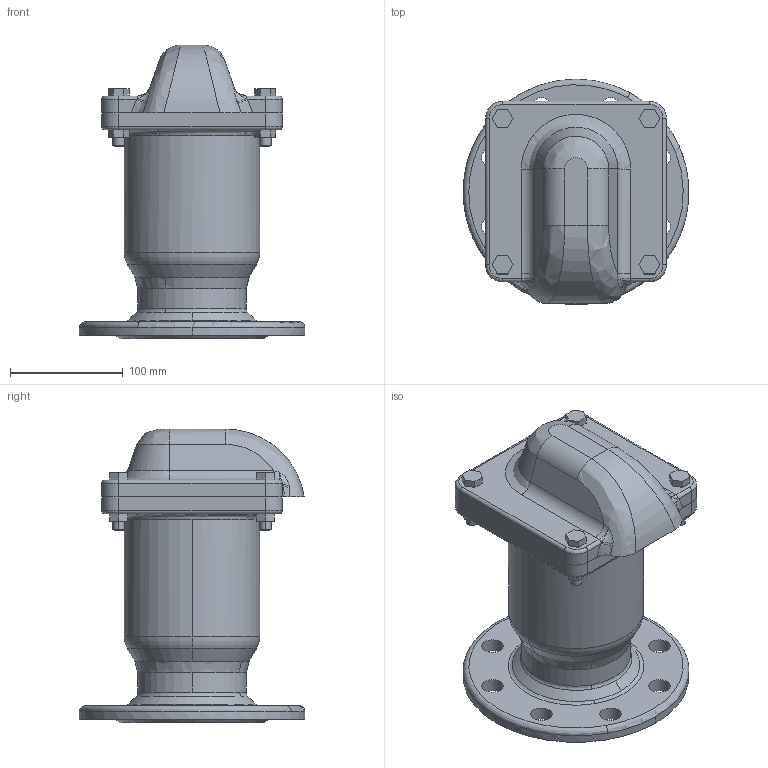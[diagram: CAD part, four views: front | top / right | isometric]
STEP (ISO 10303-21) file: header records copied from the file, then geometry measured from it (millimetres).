
FILE_DESCRIPTION (( 'STEP AP203' ), '1' );
FILE_NAME ('0.STEP', '2017-05-28T02:06:57', ( 'User' ), ( 'shendu' ), 'SwSTEP 2.0', 'SolidWorks 2015', '' );
FILE_SCHEMA (( 'CONFIG_CONTROL_DESIGN' ));
Length unit declared in the file: millimetre
Products named in the file (1): 0
Bounding box: 200 x 200 x 260 mm (x, y, z)
Volume: 2475245.7 mm3; surface area: 496314.2 mm2
Topology: 11 solids, 11 shells, 307 faces, 737 edges, 461 vertices
Faces by surface type: plane 115, cylinder 103, bspline 60, cone 18, torus 11
Entity records: 19676 total; most frequent: CARTESIAN_POINT 12733, ORIENTED_EDGE 1452, DIRECTION 1335, EDGE_CURVE 726, AXIS2_PLACEMENT_3D 492, VERTEX_POINT 461, EDGE_LOOP 367, LINE 351
